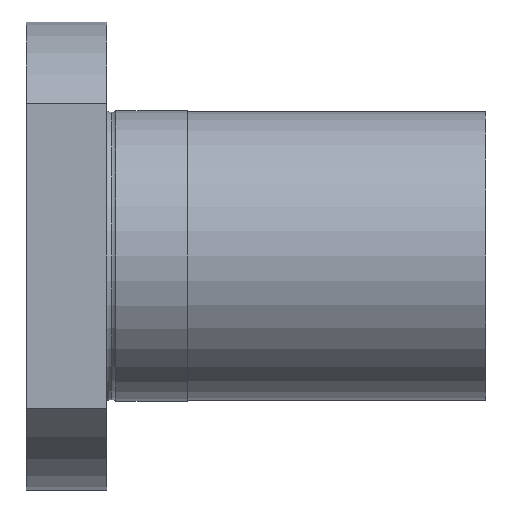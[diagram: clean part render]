
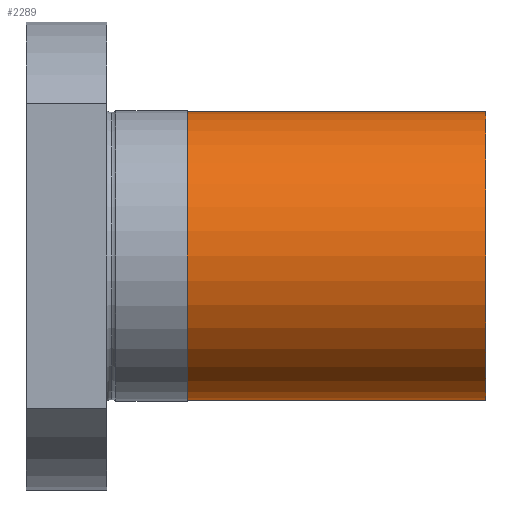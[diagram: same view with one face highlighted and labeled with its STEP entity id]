
A CAD part, front view. The second image highlights one B-rep face of the part: STEP entity #2289.
In plain terms, the highlighted cylindrical face has radius 17.9 mm (diameter 35.8 mm), a partial arc.
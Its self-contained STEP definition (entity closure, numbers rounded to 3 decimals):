
#43 = CARTESIAN_POINT ( 'NONE',  ( 44.422, 0., 17.9 ) ) ;
#149 = AXIS2_PLACEMENT_3D ( 'NONE', #889, #2481, #2073 ) ;
#219 = CARTESIAN_POINT ( 'NONE',  ( -100.792, 0., 17.9 ) ) ;
#224 = FACE_OUTER_BOUND ( 'NONE', #847, .T. ) ;
#225 = CARTESIAN_POINT ( 'NONE',  ( 7.422, 0., 17.9 ) ) ;
#281 = LINE ( 'NONE', #219, #575 ) ;
#293 = CARTESIAN_POINT ( 'NONE',  ( 44.422, 0., 0. ) ) ;
#412 = DIRECTION ( 'NONE',  ( -1., 0., 0. ) ) ;
#467 = EDGE_CURVE ( 'NONE', #1745, #766, #1214, .T. ) ;
#508 = DIRECTION ( 'NONE',  ( 0., 0., 1. ) ) ;
#573 = DIRECTION ( 'NONE',  ( -1., 0., 0. ) ) ;
#575 = VECTOR ( 'NONE', #1437, 1000. ) ;
#576 = CIRCLE ( 'NONE', #1413, 17.9 ) ;
#665 = EDGE_CURVE ( 'NONE', #1988, #1745, #1639, .T. ) ;
#714 = ORIENTED_EDGE ( 'NONE', *, *, #467, .F. ) ;
#766 = VERTEX_POINT ( 'NONE', #225 ) ;
#807 = ORIENTED_EDGE ( 'NONE', *, *, #665, .F. ) ;
#847 = EDGE_LOOP ( 'NONE', ( #807, #1654, #1363, #714 ) ) ;
#889 = CARTESIAN_POINT ( 'NONE',  ( -100.792, 0., 0. ) ) ;
#1122 = VECTOR ( 'NONE', #412, 1000. ) ;
#1214 = CIRCLE ( 'NONE', #2195, 17.9 ) ;
#1363 = ORIENTED_EDGE ( 'NONE', *, *, #1368, .T. ) ;
#1368 = EDGE_CURVE ( 'NONE', #1406, #766, #281, .T. ) ;
#1406 = VERTEX_POINT ( 'NONE', #43 ) ;
#1413 = AXIS2_PLACEMENT_3D ( 'NONE', #293, #1696, #508 ) ;
#1437 = DIRECTION ( 'NONE',  ( -1., 0., 0. ) ) ;
#1639 = LINE ( 'NONE', #2216, #1122 ) ;
#1654 = ORIENTED_EDGE ( 'NONE', *, *, #2357, .T. ) ;
#1696 = DIRECTION ( 'NONE',  ( -1., 0., 0. ) ) ;
#1745 = VERTEX_POINT ( 'NONE', #2167 ) ;
#1771 = CARTESIAN_POINT ( 'NONE',  ( 7.422, 0., 0. ) ) ;
#1965 = DIRECTION ( 'NONE',  ( 0., 0., 1. ) ) ;
#1988 = VERTEX_POINT ( 'NONE', #2395 ) ;
#2073 = DIRECTION ( 'NONE',  ( 0., 0., 1. ) ) ;
#2167 = CARTESIAN_POINT ( 'NONE',  ( 7.422, 0., -17.9 ) ) ;
#2195 = AXIS2_PLACEMENT_3D ( 'NONE', #1771, #573, #1965 ) ;
#2216 = CARTESIAN_POINT ( 'NONE',  ( -100.792, 0., -17.9 ) ) ;
#2234 = CYLINDRICAL_SURFACE ( 'NONE', #149, 17.9 ) ;
#2289 = ADVANCED_FACE ( 'NONE', ( #224 ), #2234, .T. ) ;
#2357 = EDGE_CURVE ( 'NONE', #1988, #1406, #576, .T. ) ;
#2395 = CARTESIAN_POINT ( 'NONE',  ( 44.422, 0., -17.9 ) ) ;
#2481 = DIRECTION ( 'NONE',  ( -1., 0., 0. ) ) ;
